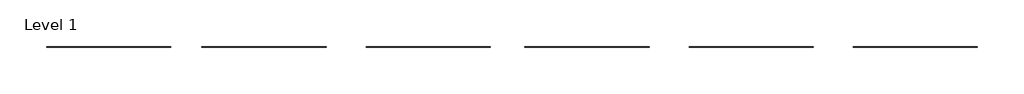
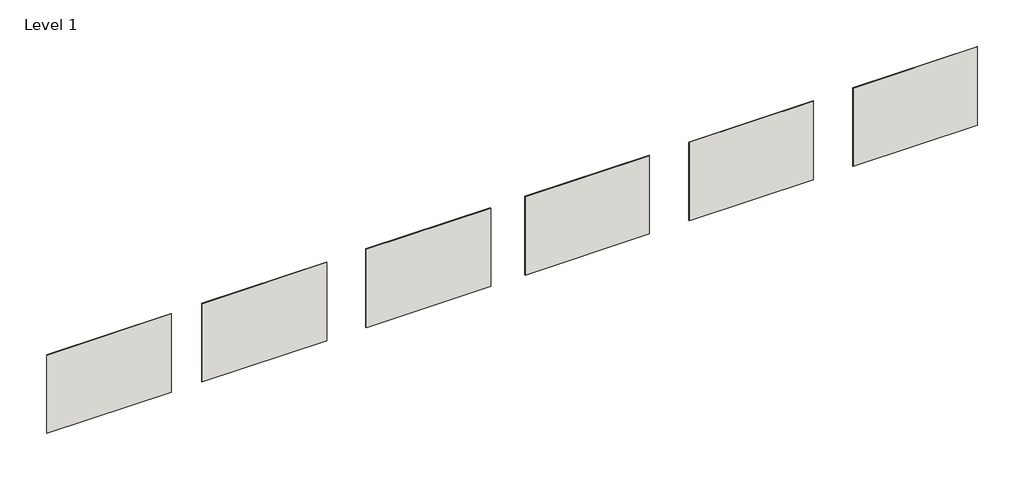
# One storey: 6 walls.
"""IFC4 building model written with IfcOpenShell, lengths in millimetres."""

from ifc_helpers import new_model, si_unit, origin, origin_with_axes, place, context, project, spatial, polyline, outline, extrude, element, save

model = new_model("IFC4")

# Units and contexts
model_context = context("Model", 3, world=origin())
ifc_project = project(units=[si_unit("LENGTHUNIT", "METRE", prefix="MILLI")], contexts=[model_context])

# Site, building, storey
site = spatial("IfcSite", under=ifc_project)
building = spatial("IfcBuilding", under=site)
storey = spatial("IfcBuildingStorey", under=building, Name="Level 1", Elevation=0.0)

# Walls
placement = place(None, origin())
element("IfcWall", 1, ObjectType="Crossville - Access Point - Travertine White - 12x24 - Stack Bond", at=placement, inside=storey, context=model_context, shape_type="SweptSolid", body=[
    extrude(outline(polyline([(-17913.681263, 4418.1835736), (-19742.481263, 4418.1835736), (-19742.481263, 4426.6835736), (-17913.681263, 4426.6835736), (-17913.681263, 4418.1835736)])), origin_with_axes(), (0.0, 0.0, 1.0), 1219.2),
])
element("IfcWall", 2, ObjectType="Crossville - Access Point - Travertine White - 12x24 - Running bond (one-third offset)", at=placement, inside=storey, context=model_context, shape_type="SweptSolid", body=[
    extrude(outline(polyline([(-20326.681263, 4418.1835736), (-22155.481263, 4418.1835736), (-22155.481263, 4426.6835736), (-20326.681263, 4426.6835736), (-20326.681263, 4418.1835736)])), origin_with_axes(), (0.0, 0.0, 1.0), 1219.2),
])
element("IfcWall", 3, ObjectType="Crossville - Access Point - Concrete Ash - 12x24 - Stack Bond", at=placement, inside=storey, context=model_context, shape_type="SweptSolid", body=[
    extrude(outline(polyline([(-25076.481263, 4418.1835736), (-26905.281263, 4418.1835736), (-26905.281263, 4426.6835736), (-25076.481263, 4426.6835736), (-25076.481263, 4418.1835736)])), origin_with_axes(), (0.0, 0.0, 1.0), 1219.2),
])
element("IfcWall", 4, ObjectType="Crossville - Access Point - Concrete Ash - 12x24 - Running bond (one-third offset)", at=placement, inside=storey, context=model_context, shape_type="SweptSolid", body=[
    extrude(outline(polyline([(-27362.481263, 4418.1835736), (-29191.281263, 4418.1835736), (-29191.281263, 4426.6835736), (-27362.481263, 4426.6835736), (-27362.481263, 4418.1835736)])), origin_with_axes(), (0.0, 0.0, 1.0), 1219.2),
])
element("IfcWall", 5, ObjectType="Crossville - Access Point - Concrete Ash - Mosaic", at=placement, inside=storey, context=model_context, shape_type="SweptSolid", body=[
    extrude(outline(polyline([(-22663.481263, 4418.1835736), (-24492.281263, 4418.1835736), (-24492.281263, 4426.6835736), (-22663.481263, 4426.6835736), (-22663.481263, 4418.1835736)])), origin_with_axes(), (0.0, 0.0, 1.0), 1219.2),
])
element("IfcWall", 6, ObjectType="Crossville - Access Point - Travertine White - Mosaic", at=placement, inside=storey, context=model_context, shape_type="SweptSolid", body=[
    extrude(outline(polyline([(-15500.681263, 4418.1835736), (-17329.481263, 4418.1835736), (-17329.481263, 4426.6835736), (-15500.681263, 4426.6835736), (-15500.681263, 4418.1835736)])), origin_with_axes(), (0.0, 0.0, 1.0), 1219.2),
])

save(model, "model.ifc")
